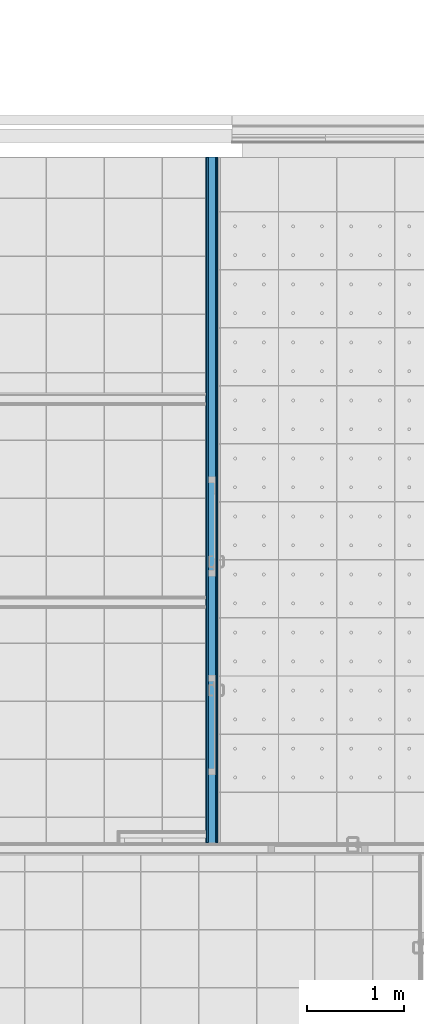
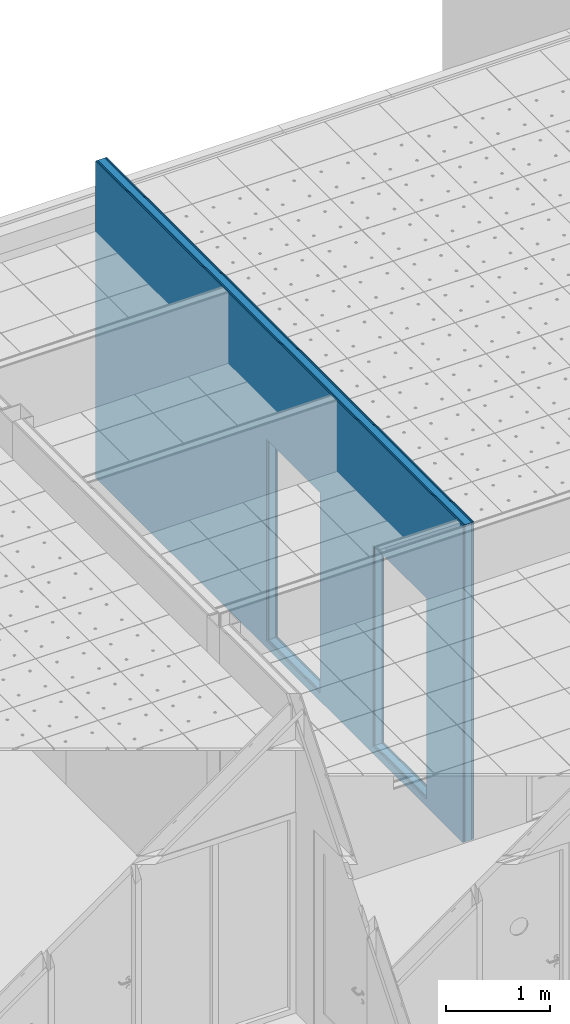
# One storey, part 55 of 338: 5 building element parts, 2 openings, 1 element without a shape of its own.
"""IFC2X3 building model written with IfcOpenShell, lengths in millimetres."""

import ifcopenshell
import ifcopenshell.guid

model = None  # the IFC model being written
_history = None  # IfcOwnerHistory: only IFC2X3 demands one
_inside = {}  # id of a spatial element -> (the spatial element, [elements in it])
_under = {}  # id of a project, library or spatial element -> (it, [spatial elements below it])
_declared = {}  # id of a project -> (the project, [libraries it declares])
_typed = {}  # id of a type object -> (the type object, [elements of that type])
_made_of = {}  # id of a material, layer set ... -> (it, [elements and type objects made of it])


def new_model(schema):
    """Start an empty IFC model of exactly this schema.

    Asked for "IFC4X3", IfcOpenShell would pick the latest addendum, in which some entities
    have other attributes; the version numbers below select the first issue.
    IFC2X3 requires an IfcOwnerHistory on every rooted entity: one is made here for all.
    """
    global model, _history
    if schema == "IFC4X3":
        model = ifcopenshell.file(schema_version=(4, 3, 0, 0))
    else:
        model = ifcopenshell.file(schema=schema)
    _inside.clear()
    _under.clear()
    _declared.clear()
    _typed.clear()
    _made_of.clear()
    _history = None
    if model.schema == "IFC2X3":
        org = make("IfcOrganization", Name="unknown")
        user = make(
            "IfcPersonAndOrganization",
            ThePerson=make("IfcPerson", FamilyName="unknown"),
            TheOrganization=org,
        )
        app = make(
            "IfcApplication",
            ApplicationDeveloper=org,
            Version="unknown",
            ApplicationFullName="unknown",
            ApplicationIdentifier="unknown",
        )
        _history = make(
            "IfcOwnerHistory",
            OwningUser=user,
            OwningApplication=app,
            ChangeAction="ADDED",
            CreationDate=0,
        )
    return model


def make(cls, **values):
    """One entity of the class cls with the attributes given. An attribute that is None is left unset."""
    return model.create_entity(
        cls, **{name: value for name, value in values.items() if value is not None}
    )


def entity(cls, *values):
    """Any entity or typed value of the class cls, its attributes in the order of the schema. None: left unset."""
    e = model.create_entity(cls)
    for i, value in enumerate(values):
        if value is not None:
            e[i] = value
    return e


def rooted(cls, **values):
    """An entity with a GlobalId (a new one), such as an element, a storey or a relation."""
    return make(cls, GlobalId=ifcopenshell.guid.new(), OwnerHistory=_history, **values)


def si_unit(unit_type, name, prefix=None):
    """IfcSIUnit, for example si_unit("LENGTHUNIT", "METRE", prefix="MILLI")."""
    return make("IfcSIUnit", UnitType=unit_type, Prefix=prefix, Name=name)


def converted_unit(unit_type, name, factor, base, dimensions=None, offset=None):
    """IfcConversionBasedUnit, such as the inch: factor (a typed value) times the base unit."""
    return make(
        "IfcConversionBasedUnit"
        if offset is None
        else "IfcConversionBasedUnitWithOffset",
        ConversionOffset=offset,
        Dimensions=None
        if dimensions is None
        else entity("IfcDimensionalExponents", *dimensions),
        UnitType=unit_type,
        Name=name,
        ConversionFactor=make(
            "IfcMeasureWithUnit", ValueComponent=factor, UnitComponent=base
        ),
    )


def derived_unit(unit_type, elements):
    """IfcDerivedUnit: a product of units, each with its exponent."""
    return make(
        "IfcDerivedUnit",
        Elements=[
            make("IfcDerivedUnitElement", Unit=unit, Exponent=power)
            for unit, power in elements
        ],
        UnitType=unit_type,
    )


def money_unit(currency):
    """IfcMonetaryUnit."""
    return make("IfcMonetaryUnit", Currency=currency)


def assignment(units):
    """IfcUnitAssignment: the units of a project."""
    return None if units is None else make("IfcUnitAssignment", Units=units)


def point(xyz):
    """IfcCartesianPoint."""
    return None if xyz is None else make("IfcCartesianPoint", Coordinates=xyz)


def direction(xyz):
    """IfcDirection."""
    return None if xyz is None else make("IfcDirection", DirectionRatios=xyz)


def frame(location, z_axis=None, x_axis=None):
    """IfcAxis2Placement3D, a coordinate frame: its origin and axes. An axis left out is left unset."""
    return make(
        "IfcAxis2Placement3D",
        Location=point(location),
        Axis=direction(z_axis),
        RefDirection=direction(x_axis),
    )


def origin_with_axes():
    """The frame at (0, 0, 0) with the z axis (0, 0, 1) and the x axis (1, 0, 0) written out."""
    return frame((0.0, 0.0, 0.0), z_axis=(0.0, 0.0, 1.0), x_axis=(1.0, 0.0, 0.0))


def place(relative_to, where):
    """IfcLocalPlacement: puts the frame where relative to a parent placement (None: the world)."""
    return make(
        "IfcLocalPlacement", PlacementRelTo=relative_to, RelativePlacement=where
    )


def context(
    kind, dimensions, precision=None, world=None, true_north=None, identifier=None
):
    """IfcGeometricRepresentationContext, for example the 3D "Model" context."""
    return make(
        "IfcGeometricRepresentationContext",
        ContextIdentifier=identifier,
        ContextType=kind,
        CoordinateSpaceDimension=dimensions,
        Precision=precision,
        WorldCoordinateSystem=world,
        TrueNorth=true_north,
    )


def subcontext(parent, identifier, kind, view, scale=None):
    """IfcGeometricRepresentationSubContext, for example "Body" below "Model"."""
    return make(
        "IfcGeometricRepresentationSubContext",
        ContextIdentifier=identifier,
        ContextType=kind,
        ParentContext=parent,
        TargetScale=scale,
        TargetView=view,
    )


def project(units=None, contexts=None):
    """IfcProject with its units and contexts."""
    return rooted(
        "IfcProject",
        Name="project",
        RepresentationContexts=contexts,
        UnitsInContext=assignment(units),
    )


def spatial(cls, under=None, at=None, **own):
    """A site, building, storey or space (cls), placed at a placement, below another one or the project."""
    s = rooted(cls, ObjectPlacement=at, **own)
    if under is not None:
        _under.setdefault(under.id(), (under, []))[1].append(s)
    return s


def faces_of(points, faces, orient=None, outer=None):
    """IfcFace entities. A face is a list of loops; a loop is a list of indices into points, from 0.

    orient and outer hold one flag for each loop. By default every Orientation is true, the
    first loop of a face is its IfcFaceOuterBound and the others are IfcFaceBound.
    """
    made = []
    for i, loops in enumerate(faces):
        bounds = []
        for j, loop in enumerate(loops):
            is_outer = j == 0 if outer is None else outer[i][j]
            bounds.append(
                make(
                    "IfcFaceOuterBound" if is_outer else "IfcFaceBound",
                    Bound=make("IfcPolyLoop", Polygon=[points[k] for k in loop]),
                    Orientation=True if orient is None else orient[i][j],
                )
            )
        made.append(make("IfcFace", Bounds=bounds))
    return made


def faceted_brep(points, faces, orient=None, outer=None, voids=None):
    """IfcFacetedBrep: a solid bounded by flat faces; with voids (closed shells), ...WithVoids."""
    shared = [point(p) for p in points]
    hull = make("IfcClosedShell", CfsFaces=faces_of(shared, faces, orient, outer))
    if voids is None:
        return make("IfcFacetedBrep", Outer=hull)
    return make(
        "IfcFacetedBrepWithVoids",
        Outer=hull,
        Voids=[
            make(cls, CfsFaces=faces_of(shared, fs, o, b)) for cls, fs, o, b in voids
        ],
    )


def shape(context_of_items, identifier, shape_type, items):
    """IfcShapeRepresentation: the items that make up one representation, for example the "Body"."""
    return make(
        "IfcShapeRepresentation",
        ContextOfItems=context_of_items,
        RepresentationIdentifier=identifier,
        RepresentationType=shape_type,
        Items=items,
    )


def material(Name=None, Category=None):
    """IfcMaterial."""
    return make("IfcMaterial", Name=Name, Category=Category)


def made_of(thing, what):
    """Note that an element or type object is made of a material, layer set ...; save() writes the relation."""
    if what is not None:
        _made_of.setdefault(what.id(), (what, []))[1].append(thing)
    return thing


def type_object(cls, material=None, **own):
    """A type object (cls), such as IfcWallType, which elements share."""
    return made_of(rooted(cls, **own), material)


def element(
    cls,
    number,
    at=None,
    inside=None,
    cuts=None,
    type_object=None,
    material=None,
    context=None,
    identifier="Body",
    shape_type=None,
    held_by="IfcProductDefinitionShape",
    body=None,
    shapes=None,
    **own,
):
    """One element of the class cls, such as IfcWall. Its Tag is "e" and its number.

    at: its placement. inside: the storey or other place that contains it. cuts: it is an
    opening in that element (IfcRelVoidsElement). A single representation is given by context,
    identifier, shape_type and body (its items); several are given by shapes. held_by: the class
    of the entity that holds the representations. save() writes the other relations.
    """
    e = rooted(cls, Tag="e%d" % number, ObjectPlacement=at, **own)
    if body is not None:
        shapes = [shape(context, identifier, shape_type, body)]
    if shapes is not None:
        e.Representation = make(held_by, Representations=shapes)
    if inside is not None:
        _inside.setdefault(inside.id(), (inside, []))[1].append(e)
    if cuts is not None:
        rooted(
            "IfcRelVoidsElement", RelatingBuildingElement=cuts, RelatedOpeningElement=e
        )
    if type_object is not None:
        _typed.setdefault(type_object.id(), (type_object, []))[1].append(e)
    return made_of(e, material)


def aggregate(whole, parts):
    """IfcRelAggregates: a whole, such as a stair, and the parts it consists of."""
    return rooted("IfcRelAggregates", RelatingObject=whole, RelatedObjects=parts)


def save(model, path):
    """Write the relations noted so far, then the file.

    IfcRelAggregates (storeys below a building ...), IfcRelContainedInSpatialStructure (elements
    in a storey), IfcRelDefinesByType, IfcRelAssociatesMaterial and IfcRelDeclares: one each for
    every whole, place, type object, material and project.
    """
    for whole, parts in _under.values():
        aggregate(whole, parts)
    for where, things in _inside.values():
        rooted(
            "IfcRelContainedInSpatialStructure",
            RelatedElements=things,
            RelatingStructure=where,
        )
    for kind, things in _typed.values():
        rooted("IfcRelDefinesByType", RelatedObjects=things, RelatingType=kind)
    for what, things in _made_of.values():
        rooted("IfcRelAssociatesMaterial", RelatedObjects=things, RelatingMaterial=what)
    for by, libraries in _declared.values():
        rooted("IfcRelDeclares", RelatingContext=by, RelatedDefinitions=libraries)
    model.write(path)


model = new_model("IFC2X3")

# Units and contexts
model_context = context("Model", 3, precision=0.01, world=origin_with_axes(), true_north=direction((0.0, 1.0)))
plan_context = context("Plan", 3, precision=0.01, world=origin_with_axes(), true_north=direction((0.0, 1.0)))
body_context = subcontext(model_context, "Body", "Model", "MODEL_VIEW")
ifc_project = project(units=[si_unit("LENGTHUNIT", "METRE", prefix="MILLI"), si_unit("AREAUNIT", "SQUARE_METRE"), si_unit("VOLUMEUNIT", "CUBIC_METRE"), converted_unit("PLANEANGLEUNIT", "DEGREE", entity("IfcPlaneAngleMeasure", 0.0174532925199), si_unit("PLANEANGLEUNIT", "RADIAN"), dimensions=[0, 0, 0, 0, 0, 0, 0]), money_unit("EUR"), converted_unit("TIMEUNIT", "Year", entity("IfcTimeMeasure", 31556926.0), si_unit("TIMEUNIT", "SECOND"), dimensions=[0, 0, 1, 0, 0, 0, 0]), si_unit("MASSUNIT", "GRAM", prefix="KILO"), si_unit("THERMODYNAMICTEMPERATUREUNIT", "DEGREE_CELSIUS"), si_unit("LUMINOUSINTENSITYUNIT", "LUMEN"), si_unit("ENERGYUNIT", "JOULE", prefix="MEGA"), derived_unit("THERMALCONDUCTANCEUNIT", [(si_unit("POWERUNIT", "WATT"), 1), (si_unit("LENGTHUNIT", "METRE"), -1), (si_unit("THERMODYNAMICTEMPERATUREUNIT", "KELVIN"), -1)]), derived_unit("SPECIFICHEATCAPACITYUNIT", [(si_unit("ENERGYUNIT", "JOULE"), 1), (si_unit("MASSUNIT", "GRAM", prefix="KILO"), -1), (si_unit("THERMODYNAMICTEMPERATUREUNIT", "KELVIN"), -1)]), derived_unit("MASSDENSITYUNIT", [(si_unit("MASSUNIT", "GRAM", prefix="KILO"), 1), (si_unit("VOLUMEUNIT", "CUBIC_METRE"), -1)])], contexts=[model_context, plan_context])

# Site, building, storey
site_placement = place(None, origin_with_axes())
site = spatial("IfcSite", under=ifc_project, at=site_placement, Name="Fortuinstraat Woensdrecht", CompositionType="ELEMENT")
building_placement = place(site_placement, origin_with_axes())
building = spatial("IfcBuilding", under=site, at=building_placement, Name="IKC Fortuna", CompositionType="ELEMENT")
storey_placement = place(building_placement, origin_with_axes())
storey = spatial("IfcBuildingStorey", under=building, at=storey_placement, Name="00 begane grond", CompositionType="ELEMENT", Elevation=0.0)

# Wall, openings, building element parts
wall_type = type_object("IfcWallType", Name="MS125 2.75.2A 125", PredefinedType="NOTDEFINED")
wall_placement = place(storey_placement, frame((23344.355011, 35346.2966283, -90.0), z_axis=(0.0, 0.0, 1.0), x_axis=(0.0, -1.0, 0.0)))
wall = element("IfcWall", 1, at=wall_placement, inside=storey, type_object=wall_type, Name="22_Wand_Binnenwand")
opening_1_placement = place(wall_placement, frame((5871.8940583, 0.0, 90.0), z_axis=(0.0, 0.0, 1.0), x_axis=(1.0, 0.0, 0.0)))
element("IfcOpeningElement", 2, at=opening_1_placement, cuts=wall, Name="32_Deur_h.01b", context=body_context, shape_type="Brep", body=[
    faceted_brep([(517.0, -125.0, 2367.0), (517.0, -125.0, 0.0), (517.0, 250.0, 0.0), (517.0, 250.0, 2367.0), (-517.0, -125.0, 2367.0), (-517.0, -125.0, 0.0), (-517.0, 250.0, 0.0), (-517.0, 250.0, 2367.0)], [[[0, 1, 2, 3]], [[0, 4, 5, 1]], [[1, 5, 6, 2]], [[3, 2, 6, 7]], [[4, 0, 3, 7]], [[5, 4, 7, 6]]]),
])
opening_2_placement = place(wall_placement, frame((3818.8940583, 0.0, 90.0), z_axis=(0.0, 0.0, 1.0), x_axis=(1.0, 0.0, 0.0)))
element("IfcOpeningElement", 3, at=opening_2_placement, cuts=wall, Name="32_Deur_h.01c", context=body_context, shape_type="Brep", body=[
    faceted_brep([(-517.0, 250.0, 2367.0), (-517.0, 250.0, 0.0), (-517.0, -125.0, 0.0), (-517.0, -125.0, 2367.0), (517.0, 250.0, 2367.0), (517.0, 250.0, 0.0), (517.0, -125.0, 0.0), (517.0, -125.0, 2367.0)], [[[0, 1, 2, 3]], [[0, 4, 5, 1]], [[1, 5, 6, 2]], [[3, 2, 6, 7]], [[4, 0, 3, 7]], [[5, 4, 7, 6]]]),
])
ifc_material_1 = material(Name="Gipsplaat")
building_element_part_1_placement = place(wall_placement, origin_with_axes())
building_element_part_1 = element("IfcBuildingElementPart", 4, at=building_element_part_1_placement, material=ifc_material_1, Name="Gipsplaat", context=body_context, shape_type="Brep", body=[
    faceted_brep([(0.0, 112.5, 3740.0), (0.0, 112.5, 0.0), (7088.8940583, 112.5, 0.0), (7088.8940583, 112.5, 3740.0), (5354.8940583, 112.5, 90.0), (5354.8940583, 112.5, 2457.0), (6388.8940583, 112.5, 2457.0), (6388.8940583, 112.5, 90.0), (4335.8940583, 112.5, 90.0), (3301.8940583, 112.5, 90.0), (3301.8940583, 112.5, 2457.0), (4335.8940583, 112.5, 2457.0), (0.0, 125.0, 0.0), (0.0, 125.0, 3740.0), (7088.8940583, 125.0, 0.0), (7088.8940583, 125.0, 3740.0), (5354.8940583, 125.0, 2457.0), (5354.8940583, 125.0, 90.0), (6388.8940583, 125.0, 2457.0), (6388.8940583, 125.0, 90.0), (4335.8940583, 125.0, 90.0), (3301.8940583, 125.0, 90.0), (3301.8940583, 125.0, 2457.0), (4335.8940583, 125.0, 2457.0)], [[[0, 1, 2, 3], [4, 5, 6, 7], [8, 9, 10, 11]], [[12, 1, 0, 13]], [[1, 12, 14, 2]], [[14, 15, 3, 2]], [[13, 0, 3, 15]], [[16, 5, 4, 17]], [[18, 6, 5, 16]], [[19, 7, 6, 18]], [[17, 4, 7, 19]], [[20, 21, 9, 8]], [[21, 22, 10, 9]], [[22, 23, 11, 10]], [[23, 20, 8, 11]], [[12, 13, 15, 14], [18, 16, 17, 19], [20, 23, 22, 21]]]),
])
building_element_part_2_placement = place(wall_placement, origin_with_axes())
building_element_part_2 = element("IfcBuildingElementPart", 5, at=building_element_part_2_placement, material=ifc_material_1, Name="Gipsplaat", context=body_context, shape_type="Brep", body=[
    faceted_brep([(0.0, 100.0, 3740.0), (0.0, 100.0, 0.0), (7088.8940583, 100.0, 0.0), (7088.8940583, 100.0, 3740.0), (5354.8940583, 100.0, 90.0), (5354.8940583, 100.0, 2457.0), (6388.8940583, 100.0, 2457.0), (6388.8940583, 100.0, 90.0), (4335.8940583, 100.0, 90.0), (3301.8940583, 100.0, 90.0), (3301.8940583, 100.0, 2457.0), (4335.8940583, 100.0, 2457.0), (0.0, 112.5, 0.0), (0.0, 112.5, 3740.0), (7088.8940583, 112.5, 0.0), (7088.8940583, 112.5, 3740.0), (5354.8940583, 112.5, 2457.0), (5354.8940583, 112.5, 90.0), (6388.8940583, 112.5, 2457.0), (6388.8940583, 112.5, 90.0), (4335.8940583, 112.5, 90.0), (3301.8940583, 112.5, 90.0), (3301.8940583, 112.5, 2457.0), (4335.8940583, 112.5, 2457.0)], [[[0, 1, 2, 3], [4, 5, 6, 7], [8, 9, 10, 11]], [[12, 1, 0, 13]], [[1, 12, 14, 2]], [[14, 15, 3, 2]], [[13, 0, 3, 15]], [[16, 5, 4, 17]], [[18, 6, 5, 16]], [[19, 7, 6, 18]], [[17, 4, 7, 19]], [[20, 21, 9, 8]], [[21, 22, 10, 9]], [[22, 23, 11, 10]], [[23, 20, 8, 11]], [[12, 13, 15, 14], [18, 16, 17, 19], [20, 23, 22, 21]]]),
])
ifc_material_2 = material(Name="Isolatie - Steenwol LSW")
building_element_part_3_placement = place(wall_placement, origin_with_axes())
building_element_part_3 = element("IfcBuildingElementPart", 6, at=building_element_part_3_placement, material=ifc_material_2, Name="Isolatie - Steenwol LSW", context=body_context, shape_type="Brep", body=[
    faceted_brep([(0.0, 25.0, 3740.0), (0.0, 25.0, 0.0), (7088.8940583, 25.0, 0.0), (7088.8940583, 25.0, 3740.0), (5354.8940583, 25.0, 90.0), (5354.8940583, 25.0, 2457.0), (6388.8940583, 25.0, 2457.0), (6388.8940583, 25.0, 90.0), (4335.8940583, 25.0, 90.0), (3301.8940583, 25.0, 90.0), (3301.8940583, 25.0, 2457.0), (4335.8940583, 25.0, 2457.0), (0.0, 100.0, 0.0), (0.0, 100.0, 3740.0), (7088.8940583, 100.0, 0.0), (7088.8940583, 100.0, 3740.0), (5354.8940583, 100.0, 2457.0), (5354.8940583, 100.0, 90.0), (6388.8940583, 100.0, 2457.0), (6388.8940583, 100.0, 90.0), (4335.8940583, 100.0, 90.0), (3301.8940583, 100.0, 90.0), (3301.8940583, 100.0, 2457.0), (4335.8940583, 100.0, 2457.0)], [[[0, 1, 2, 3], [4, 5, 6, 7], [8, 9, 10, 11]], [[12, 1, 0, 13]], [[1, 12, 14, 2]], [[14, 15, 3, 2]], [[13, 0, 3, 15]], [[16, 5, 4, 17]], [[18, 6, 5, 16]], [[19, 7, 6, 18]], [[17, 4, 7, 19]], [[20, 21, 9, 8]], [[21, 22, 10, 9]], [[22, 23, 11, 10]], [[23, 20, 8, 11]], [[12, 13, 15, 14], [18, 16, 17, 19], [20, 23, 22, 21]]]),
])
building_element_part_4_placement = place(wall_placement, origin_with_axes())
building_element_part_4 = element("IfcBuildingElementPart", 7, at=building_element_part_4_placement, material=ifc_material_1, Name="Gipsplaat", context=body_context, shape_type="Brep", body=[
    faceted_brep([(0.0, 12.5, 3740.0), (0.0, 12.5, 0.0), (7088.8940583, 12.5, 0.0), (7088.8940583, 12.5, 3740.0), (5354.8940583, 12.5, 90.0), (5354.8940583, 12.5, 2457.0), (6388.8940583, 12.5, 2457.0), (6388.8940583, 12.5, 90.0), (4335.8940583, 12.5, 90.0), (3301.8940583, 12.5, 90.0), (3301.8940583, 12.5, 2457.0), (4335.8940583, 12.5, 2457.0), (0.0, 25.0, 0.0), (0.0, 25.0, 3740.0), (7088.8940583, 25.0, 0.0), (7088.8940583, 25.0, 3740.0), (5354.8940583, 25.0, 2457.0), (5354.8940583, 25.0, 90.0), (6388.8940583, 25.0, 2457.0), (6388.8940583, 25.0, 90.0), (4335.8940583, 25.0, 90.0), (3301.8940583, 25.0, 90.0), (3301.8940583, 25.0, 2457.0), (4335.8940583, 25.0, 2457.0)], [[[0, 1, 2, 3], [4, 5, 6, 7], [8, 9, 10, 11]], [[12, 1, 0, 13]], [[1, 12, 14, 2]], [[14, 15, 3, 2]], [[13, 0, 3, 15]], [[16, 5, 4, 17]], [[18, 6, 5, 16]], [[19, 7, 6, 18]], [[17, 4, 7, 19]], [[20, 21, 9, 8]], [[21, 22, 10, 9]], [[22, 23, 11, 10]], [[23, 20, 8, 11]], [[12, 13, 15, 14], [18, 16, 17, 19], [20, 23, 22, 21]]]),
])
building_element_part_5_placement = place(wall_placement, origin_with_axes())
building_element_part_5 = element("IfcBuildingElementPart", 8, at=building_element_part_5_placement, material=ifc_material_1, Name="Gipsplaat", context=body_context, shape_type="Brep", body=[
    faceted_brep([(0.0, 0.0, 3740.0), (0.0, 0.0, 0.0), (7088.8940583, 0.0, 0.0), (7088.8940583, 0.0, 3740.0), (5354.8940583, 0.0, 90.0), (5354.8940583, 0.0, 2457.0), (6388.8940583, 0.0, 2457.0), (6388.8940583, 0.0, 90.0), (4335.8940583, 0.0, 90.0), (3301.8940583, 0.0, 90.0), (3301.8940583, 0.0, 2457.0), (4335.8940583, 0.0, 2457.0), (0.0, 12.5, 0.0), (0.0, 12.5, 3740.0), (7088.8940583, 12.5, 0.0), (7088.8940583, 12.5, 3740.0), (5354.8940583, 12.5, 2457.0), (5354.8940583, 12.5, 90.0), (6388.8940583, 12.5, 2457.0), (6388.8940583, 12.5, 90.0), (4335.8940583, 12.5, 90.0), (3301.8940583, 12.5, 90.0), (3301.8940583, 12.5, 2457.0), (4335.8940583, 12.5, 2457.0)], [[[0, 1, 2, 3], [4, 5, 6, 7], [8, 9, 10, 11]], [[12, 1, 0, 13]], [[1, 12, 14, 2]], [[14, 15, 3, 2]], [[13, 0, 3, 15]], [[16, 5, 4, 17]], [[18, 6, 5, 16]], [[19, 7, 6, 18]], [[17, 4, 7, 19]], [[20, 21, 9, 8]], [[21, 22, 10, 9]], [[22, 23, 11, 10]], [[23, 20, 8, 11]], [[12, 13, 15, 14], [18, 16, 17, 19], [20, 23, 22, 21]]]),
])
aggregate(wall, [building_element_part_1, building_element_part_2, building_element_part_3, building_element_part_4, building_element_part_5])

save(model, "model.ifc")
